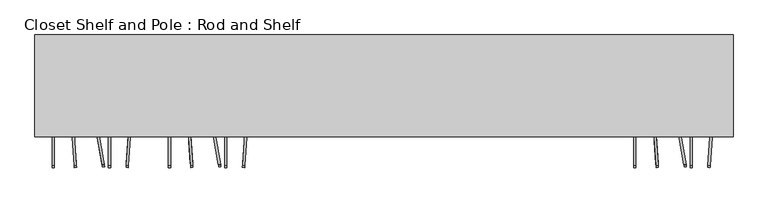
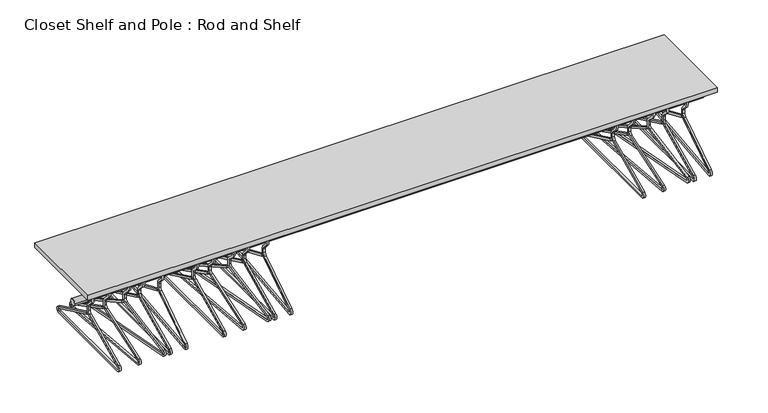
"""IFC4 building model written with IfcOpenShell, lengths in millimetres: furniture geometry, Closet Shelf and Pole : Rod and Shelf."""

from ifc_helpers import new_model, si_unit, point, frame, frame_2d, origin, place, context, project, spatial, polyline, circle_curve, trimmed, segment, composite_curve, outline, extrude, source, transform, mapped, element, save


def closet_shelf_and_pole_rod_and_shelf_79c3418e(model_context):
    return source(origin(), model_context, "Body", "SweptSolid", [
        extrude(outline(composite_curve([segment(polyline([(0.0, -7.62), (0.0, 0.0), (209.55, 0.0)]), True, "CONTINUOUS"), segment(trimmed(circle_curve(frame_2d((209.55, -12.7)), 12.7), [point((209.55, 0.0))], [point((215.0168758, -24.1631265))], False, "CARTESIAN"), True, "CONTINUOUS"), segment(polyline([(215.0168758, -24.1631265), (-140.3400452, -193.6362767)]), True, "CONTINUOUS"), segment(trimmed(circle_curve(frame_2d((-145.806921, -182.1731502)), 12.7), [point((-140.3400452, -193.6362767))], [point((-155.6758169, -174.179722))], False, "CARTESIAN"), True, "CONTINUOUS"), segment(polyline([(-155.6758169, -174.179722), (-19.6406824, -6.2271797)]), True, "CONTINUOUS"), segment(trimmed(circle_curve(frame_2d((-29.5095783, 1.7662485)), 12.7), [point((-19.6406824, -6.2271797))], [point((-18.0464519, 7.2331242))], True, "CARTESIAN"), True, "CONTINUOUS"), segment(polyline([(-18.0464519, 7.2331242), (-24.2041701, 20.1448321)]), True, "CONTINUOUS"), segment(trimmed(circle_curve(frame_2d((-35.6672966, 14.6779563)), 12.7), [point((-24.2041701, 20.1448321))], [point((-31.4273071, 26.6492757))], True, "CARTESIAN"), True, "CONTINUOUS"), segment(polyline([(-31.4273071, 26.6492757), (-50.4112631, 33.3729936)]), True, "CONTINUOUS"), segment(trimmed(circle_curve(frame_2d((-41.9312841, 57.3156324)), 25.4), [point((-50.4112631, 33.3729936))], [point((-19.005031, 68.2493841))], False, "CARTESIAN"), True, "CONTINUOUS"), segment(polyline([(-19.005031, 68.2493841), (-25.882907, 64.9692586)]), True, "CONTINUOUS"), segment(trimmed(circle_curve(frame_2d((-41.9312841, 57.3156324)), 17.78), [point((-25.882907, 64.9692586))], [point((-47.8672693, 40.5557852))], True, "CARTESIAN"), True, "CONTINUOUS"), segment(polyline([(-47.8672693, 40.5557852), (-28.8833134, 33.8320674)]), True, "CONTINUOUS"), segment(trimmed(circle_curve(frame_2d((-35.6672966, 14.6779563)), 20.32), [point((-28.8833134, 33.8320674))], [point((-17.3262942, 23.4249576))], False, "CARTESIAN"), True, "CONTINUOUS"), segment(polyline([(-17.3262942, 23.4249576), (-11.1685759, 10.5132497)]), True, "CONTINUOUS"), segment(trimmed(circle_curve(frame_2d((-29.5095783, 1.7662485)), 20.32), [point((-11.1685759, 10.5132497))], [point((-13.7193448, -11.0232366))], False, "CARTESIAN"), True, "CONTINUOUS"), segment(polyline([(-13.7193448, -11.0232366), (-149.7544794, -178.9757789)]), True, "CONTINUOUS"), segment(trimmed(circle_curve(frame_2d((-145.806921, -182.1731502)), 5.08), [point((-149.7544794, -178.9757789))], [point((-143.6201707, -186.7584008))], True, "CARTESIAN"), True, "CONTINUOUS"), segment(polyline([(-143.6201707, -186.7584008), (211.7367503, -17.2852506)]), True, "CONTINUOUS"), segment(trimmed(circle_curve(frame_2d((209.55, -12.7)), 5.08), [point((211.7367503, -17.2852506))], [point((209.55, -7.62))], True, "CARTESIAN"), True, "CONTINUOUS"), segment(polyline([(209.55, -7.62), (0.0, -7.62)]), True, "CONTINUOUS")], self_intersect=False)), frame((603.5600176, -241.686473, 1314.5165774), z_axis=(0.9848077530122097, 0.1736481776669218, 0.0), x_axis=(-0.15673630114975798, 0.8888957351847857, -0.4304626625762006)), (0.0, 0.0, 1.0), 7.62),
        extrude(outline(composite_curve([segment(polyline([(0.0, -7.62), (0.0, 0.0), (209.55, 0.0)]), True, "CONTINUOUS"), segment(trimmed(circle_curve(frame_2d((209.55, 5.08)), 5.08), [point((209.55, 0.0))], [point((211.7367503, 9.6652506))], True, "CARTESIAN"), True, "CONTINUOUS"), segment(polyline([(211.7367503, 9.6652506), (-143.6201708, 179.1384008)]), True, "CONTINUOUS"), segment(trimmed(circle_curve(frame_2d((-145.8069211, 174.5531502)), 5.08), [point((-143.6201708, 179.1384008))], [point((-149.7544794, 171.355779))], True, "CARTESIAN"), True, "CONTINUOUS"), segment(polyline([(-149.7544794, 171.355779), (-13.7193449, 3.4032366)]), True, "CONTINUOUS"), segment(trimmed(circle_curve(frame_2d((-29.5095783, -9.3862485)), 20.32), [point((-13.7193449, 3.4032366))], [point((-11.1685759, -18.1332498))], False, "CARTESIAN"), True, "CONTINUOUS"), segment(polyline([(-11.1685759, -18.1332498), (-17.3262942, -31.0449576)]), True, "CONTINUOUS"), segment(trimmed(circle_curve(frame_2d((-35.6672966, -22.2979563)), 20.32), [point((-17.3262942, -31.0449576))], [point((-28.8833133, -41.4520675))], False, "CARTESIAN"), True, "CONTINUOUS"), segment(polyline([(-28.8833133, -41.4520675), (-47.8672693, -48.1757852)]), True, "CONTINUOUS"), segment(trimmed(circle_curve(frame_2d((-41.931284, -64.9356325)), 17.78), [point((-47.8672693, -48.1757852))], [point((-25.882907, -72.5892586))], True, "CARTESIAN"), True, "CONTINUOUS"), segment(polyline([(-25.882907, -72.5892586), (-19.0050311, -75.8693841)]), True, "CONTINUOUS"), segment(trimmed(circle_curve(frame_2d((-41.931284, -64.9356325)), 25.4), [point((-19.0050311, -75.8693841))], [point((-50.4112631, -40.9929936))], False, "CARTESIAN"), True, "CONTINUOUS"), segment(polyline([(-50.4112631, -40.9929936), (-31.427307, -34.2692758)]), True, "CONTINUOUS"), segment(trimmed(circle_curve(frame_2d((-35.6672966, -22.2979563)), 12.7), [point((-31.427307, -34.2692758))], [point((-24.2041701, -27.7648321))], True, "CARTESIAN"), True, "CONTINUOUS"), segment(polyline([(-24.2041701, -27.7648321), (-18.0464518, -14.8531243)]), True, "CONTINUOUS"), segment(trimmed(circle_curve(frame_2d((-29.5095783, -9.3862485)), 12.7), [point((-18.0464518, -14.8531243))], [point((-19.6406824, -1.3928203))], True, "CARTESIAN"), True, "CONTINUOUS"), segment(polyline([(-19.6406824, -1.3928203), (-155.6758169, 166.559722)]), True, "CONTINUOUS"), segment(trimmed(circle_curve(frame_2d((-145.8069211, 174.5531502)), 12.7), [point((-155.6758169, 166.559722))], [point((-140.3400453, 186.0162767))], False, "CARTESIAN"), True, "CONTINUOUS"), segment(polyline([(-140.3400453, 186.0162767), (215.0168758, 16.5431265)]), True, "CONTINUOUS"), segment(trimmed(circle_curve(frame_2d((209.55, 5.08)), 12.7), [point((215.0168758, 16.5431265))], [point((209.55, -7.6200001))], False, "CARTESIAN"), True, "CONTINUOUS"), segment(polyline([(209.55, -7.6200001), (0.0, -7.62)]), True, "CONTINUOUS")], self_intersect=False)), frame((747.4409707, -244.394713, 1307.6387015), z_axis=(-0.9975640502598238, 0.0697564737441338, 0.0), x_axis=(0.06296277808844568, 0.900409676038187, -0.4304626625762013)), (0.0, 0.0, 1.0), 7.62),
        extrude(outline(composite_curve([segment(polyline([(0.0, -7.62), (0.0, 0.0), (209.55, 0.0)]), True, "CONTINUOUS"), segment(trimmed(circle_curve(frame_2d((209.55, -12.7)), 12.7), [point((209.55, 0.0))], [point((215.0168758, -24.1631265))], False, "CARTESIAN"), True, "CONTINUOUS"), segment(polyline([(215.0168758, -24.1631265), (-140.3400453, -193.6362767)]), True, "CONTINUOUS"), segment(trimmed(circle_curve(frame_2d((-145.8069211, -182.1731502)), 12.7), [point((-140.3400453, -193.6362767))], [point((-155.6758169, -174.179722))], False, "CARTESIAN"), True, "CONTINUOUS"), segment(polyline([(-155.6758169, -174.179722), (-19.6406824, -6.2271797)]), True, "CONTINUOUS"), segment(trimmed(circle_curve(frame_2d((-29.5095783, 1.7662484)), 12.7), [point((-19.6406824, -6.2271797))], [point((-18.0464519, 7.2331242))], True, "CARTESIAN"), True, "CONTINUOUS"), segment(polyline([(-18.0464519, 7.2331242), (-24.2041701, 20.1448321)]), True, "CONTINUOUS"), segment(trimmed(circle_curve(frame_2d((-35.6672966, 14.6779563)), 12.7), [point((-24.2041701, 20.1448321))], [point((-31.427307, 26.6492757))], True, "CARTESIAN"), True, "CONTINUOUS"), segment(polyline([(-31.427307, 26.6492757), (-50.4112631, 33.3729936)]), True, "CONTINUOUS"), segment(trimmed(circle_curve(frame_2d((-41.9312841, 57.3156324)), 25.4), [point((-50.4112631, 33.3729936))], [point((-19.0050311, 68.2493841))], False, "CARTESIAN"), True, "CONTINUOUS"), segment(polyline([(-19.0050311, 68.2493841), (-25.882907, 64.9692586)]), True, "CONTINUOUS"), segment(trimmed(circle_curve(frame_2d((-41.9312841, 57.3156324)), 17.78), [point((-25.882907, 64.9692586))], [point((-47.8672693, 40.5557852))], True, "CARTESIAN"), True, "CONTINUOUS"), segment(polyline([(-47.8672693, 40.5557852), (-28.8833133, 33.8320674)]), True, "CONTINUOUS"), segment(trimmed(circle_curve(frame_2d((-35.6672966, 14.6779563)), 20.32), [point((-28.8833133, 33.8320674))], [point((-17.3262942, 23.4249576))], False, "CARTESIAN"), True, "CONTINUOUS"), segment(polyline([(-17.3262942, 23.4249576), (-11.1685759, 10.5132497)]), True, "CONTINUOUS"), segment(trimmed(circle_curve(frame_2d((-29.5095783, 1.7662484)), 20.32), [point((-11.1685759, 10.5132497))], [point((-13.7193449, -11.0232367))], False, "CARTESIAN"), True, "CONTINUOUS"), segment(polyline([(-13.7193449, -11.0232367), (-149.7544795, -178.975779)]), True, "CONTINUOUS"), segment(trimmed(circle_curve(frame_2d((-145.8069211, -182.1731502)), 5.08), [point((-149.7544795, -178.975779))], [point((-143.6201708, -186.7584008))], True, "CARTESIAN"), True, "CONTINUOUS"), segment(polyline([(-143.6201708, -186.7584008), (211.7367503, -17.2852506)]), True, "CONTINUOUS"), segment(trimmed(circle_curve(frame_2d((209.55, -12.7)), 5.08), [point((211.7367503, -17.2852506))], [point((209.5499999, -7.62))], True, "CARTESIAN"), True, "CONTINUOUS"), segment(polyline([(209.5499999, -7.62), (0.0, -7.62)]), True, "CONTINUOUS")], self_intersect=False)), frame((528.6802193, -241.1225777, 1314.5165774), z_axis=(0.997564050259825, 0.06975647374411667, 0.0), x_axis=(-0.06296277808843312, 0.900409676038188, -0.4304626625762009)), (0.0, 0.0, 1.0), 7.62),
        extrude(outline(composite_curve([segment(polyline([(-244.1048367, 1307.6387015), (-240.8247112, 1314.5165774), (-51.6831242, 1224.3131265)]), True, "CONTINUOUS"), segment(trimmed(circle_curve(frame_2d((-57.15, 1212.85)), 12.7), [point((-51.6831242, 1224.3131265))], [point((-57.15, 1200.15))], False, "CARTESIAN"), True, "CONTINUOUS"), segment(polyline([(-57.15, 1200.15), (-450.85, 1200.15)]), True, "CONTINUOUS"), segment(trimmed(circle_curve(frame_2d((-450.85, 1212.85)), 12.7), [point((-450.85, 1200.15))], [point((-456.3168758, 1224.3131265))], False, "CARTESIAN"), True, "CONTINUOUS"), segment(polyline([(-456.3168758, 1224.3131265), (-261.2331242, 1317.3504532)]), True, "CONTINUOUS"), segment(trimmed(circle_curve(frame_2d((-266.7, 1328.8135797)), 12.7), [point((-261.2331242, 1317.3504532))], [point((-254.0, 1328.8135797))], True, "CARTESIAN"), True, "CONTINUOUS"), segment(polyline([(-254.0, 1328.8135797), (-254.0, 1343.1184633)]), True, "CONTINUOUS"), segment(trimmed(circle_curve(frame_2d((-266.7, 1343.1184633)), 12.7), [point((-254.0, 1343.1184633))], [point((-257.7197439, 1352.0987194))], True, "CARTESIAN"), True, "CONTINUOUS"), segment(polyline([(-257.7197439, 1352.0987194), (-271.9605122, 1366.3394878)]), True, "CONTINUOUS"), segment(trimmed(circle_curve(frame_2d((-254.0, 1384.3)), 25.4), [point((-271.9605122, 1366.3394878))], [point((-228.6, 1384.3))], False, "CARTESIAN"), True, "CONTINUOUS"), segment(polyline([(-228.6, 1384.3), (-236.22, 1384.3)]), True, "CONTINUOUS"), segment(trimmed(circle_curve(frame_2d((-254.0, 1384.3)), 17.78), [point((-236.22, 1384.3))], [point((-266.5723586, 1371.7276414))], True, "CARTESIAN"), True, "CONTINUOUS"), segment(polyline([(-266.5723586, 1371.7276414), (-252.3315902, 1357.4868731)]), True, "CONTINUOUS"), segment(trimmed(circle_curve(frame_2d((-266.7, 1343.1184633)), 20.32), [point((-252.3315902, 1357.4868731))], [point((-246.38, 1343.1184633))], False, "CARTESIAN"), True, "CONTINUOUS"), segment(polyline([(-246.38, 1343.1184633), (-246.38, 1328.8135797)]), True, "CONTINUOUS"), segment(trimmed(circle_curve(frame_2d((-266.7, 1328.8135797)), 20.32), [point((-246.38, 1328.8135797))], [point((-257.9529987, 1310.4725773))], False, "CARTESIAN"), True, "CONTINUOUS"), segment(polyline([(-257.9529987, 1310.4725773), (-453.0367503, 1217.4352506)]), True, "CONTINUOUS"), segment(trimmed(circle_curve(frame_2d((-450.85, 1212.85)), 5.08), [point((-453.0367503, 1217.4352506))], [point((-450.85, 1207.77))], True, "CARTESIAN"), True, "CONTINUOUS"), segment(polyline([(-450.85, 1207.77), (-57.15, 1207.77)]), True, "CONTINUOUS"), segment(trimmed(circle_curve(frame_2d((-57.15, 1212.85)), 5.08), [point((-57.15, 1207.77))], [point((-54.9632497, 1217.4352506))], True, "CARTESIAN"), True, "CONTINUOUS"), segment(polyline([(-54.9632497, 1217.4352506), (-244.1048367, 1307.6387015)]), True, "CONTINUOUS")], self_intersect=False)), frame((662.94, 0.0, 0.0), z_axis=(1.0, 0.0, 0.0), x_axis=(0.0, 1.0, 0.0)), (0.0, 0.0, 1.0), 7.62),
        extrude(outline(composite_curve([segment(polyline([(-244.1048367, 1307.6387015), (-240.8247112, 1314.5165774), (-51.6831242, 1224.3131265)]), True, "CONTINUOUS"), segment(trimmed(circle_curve(frame_2d((-57.15, 1212.85)), 12.7), [point((-51.6831242, 1224.3131265))], [point((-57.15, 1200.15))], False, "CARTESIAN"), True, "CONTINUOUS"), segment(polyline([(-57.15, 1200.15), (-450.85, 1200.15)]), True, "CONTINUOUS"), segment(trimmed(circle_curve(frame_2d((-450.85, 1212.85)), 12.7), [point((-450.85, 1200.15))], [point((-456.3168758, 1224.3131265))], False, "CARTESIAN"), True, "CONTINUOUS"), segment(polyline([(-456.3168758, 1224.3131265), (-261.2331242, 1317.3504532)]), True, "CONTINUOUS"), segment(trimmed(circle_curve(frame_2d((-266.7, 1328.8135797)), 12.7), [point((-261.2331242, 1317.3504532))], [point((-254.0, 1328.8135797))], True, "CARTESIAN"), True, "CONTINUOUS"), segment(polyline([(-254.0, 1328.8135797), (-254.0, 1343.1184633)]), True, "CONTINUOUS"), segment(trimmed(circle_curve(frame_2d((-266.7, 1343.1184633)), 12.7), [point((-254.0, 1343.1184633))], [point((-257.7197439, 1352.0987194))], True, "CARTESIAN"), True, "CONTINUOUS"), segment(polyline([(-257.7197439, 1352.0987194), (-271.9605122, 1366.3394878)]), True, "CONTINUOUS"), segment(trimmed(circle_curve(frame_2d((-254.0, 1384.3)), 25.4), [point((-271.9605122, 1366.3394878))], [point((-228.6, 1384.3))], False, "CARTESIAN"), True, "CONTINUOUS"), segment(polyline([(-228.6, 1384.3), (-236.22, 1384.3)]), True, "CONTINUOUS"), segment(trimmed(circle_curve(frame_2d((-254.0, 1384.3)), 17.78), [point((-236.22, 1384.3))], [point((-266.5723586, 1371.7276414))], True, "CARTESIAN"), True, "CONTINUOUS"), segment(polyline([(-266.5723586, 1371.7276414), (-252.3315902, 1357.4868731)]), True, "CONTINUOUS"), segment(trimmed(circle_curve(frame_2d((-266.7, 1343.1184633)), 20.32), [point((-252.3315902, 1357.4868731))], [point((-246.38, 1343.1184633))], False, "CARTESIAN"), True, "CONTINUOUS"), segment(polyline([(-246.38, 1343.1184633), (-246.38, 1328.8135797)]), True, "CONTINUOUS"), segment(trimmed(circle_curve(frame_2d((-266.7, 1328.8135797)), 20.32), [point((-246.38, 1328.8135797))], [point((-257.9529987, 1310.4725773))], False, "CARTESIAN"), True, "CONTINUOUS"), segment(polyline([(-257.9529987, 1310.4725773), (-453.0367503, 1217.4352506)]), True, "CONTINUOUS"), segment(trimmed(circle_curve(frame_2d((-450.85, 1212.85)), 5.08), [point((-453.0367503, 1217.4352506))], [point((-450.85, 1207.77))], True, "CARTESIAN"), True, "CONTINUOUS"), segment(polyline([(-450.85, 1207.77), (-57.15, 1207.77)]), True, "CONTINUOUS"), segment(trimmed(circle_curve(frame_2d((-57.15, 1212.85)), 5.08), [point((-57.15, 1207.77))], [point((-54.9632497, 1217.4352506))], True, "CARTESIAN"), True, "CONTINUOUS"), segment(polyline([(-54.9632497, 1217.4352506), (-244.1048367, 1307.6387015)]), True, "CONTINUOUS")], self_intersect=False)), frame((466.09, 0.0, 0.0), z_axis=(1.0, 0.0, 0.0), x_axis=(0.0, 1.0, 0.0)), (0.0, 0.0, 1.0), 7.62),
        extrude(outline(composite_curve([segment(polyline([(0.0, -7.62), (0.0, 0.0), (209.55, 0.0)]), True, "CONTINUOUS"), segment(trimmed(circle_curve(frame_2d((209.55, -12.7)), 12.7), [point((209.55, 0.0))], [point((215.0168758, -24.1631265))], False, "CARTESIAN"), True, "CONTINUOUS"), segment(polyline([(215.0168758, -24.1631265), (-140.3400452, -193.6362767)]), True, "CONTINUOUS"), segment(trimmed(circle_curve(frame_2d((-145.806921, -182.1731502)), 12.7), [point((-140.3400452, -193.6362767))], [point((-155.6758169, -174.179722))], False, "CARTESIAN"), True, "CONTINUOUS"), segment(polyline([(-155.6758169, -174.179722), (-19.6406824, -6.2271797)]), True, "CONTINUOUS"), segment(trimmed(circle_curve(frame_2d((-29.5095783, 1.7662485)), 12.7), [point((-19.6406824, -6.2271797))], [point((-18.0464519, 7.2331242))], True, "CARTESIAN"), True, "CONTINUOUS"), segment(polyline([(-18.0464519, 7.2331242), (-24.2041701, 20.1448321)]), True, "CONTINUOUS"), segment(trimmed(circle_curve(frame_2d((-35.6672966, 14.6779563)), 12.7), [point((-24.2041701, 20.1448321))], [point((-31.4273071, 26.6492757))], True, "CARTESIAN"), True, "CONTINUOUS"), segment(polyline([(-31.4273071, 26.6492757), (-50.4112631, 33.3729936)]), True, "CONTINUOUS"), segment(trimmed(circle_curve(frame_2d((-41.9312841, 57.3156324)), 25.4), [point((-50.4112631, 33.3729936))], [point((-19.005031, 68.2493841))], False, "CARTESIAN"), True, "CONTINUOUS"), segment(polyline([(-19.005031, 68.2493841), (-25.882907, 64.9692586)]), True, "CONTINUOUS"), segment(trimmed(circle_curve(frame_2d((-41.9312841, 57.3156324)), 17.78), [point((-25.882907, 64.9692586))], [point((-47.8672693, 40.5557852))], True, "CARTESIAN"), True, "CONTINUOUS"), segment(polyline([(-47.8672693, 40.5557852), (-28.8833134, 33.8320674)]), True, "CONTINUOUS"), segment(trimmed(circle_curve(frame_2d((-35.6672966, 14.6779563)), 20.32), [point((-28.8833134, 33.8320674))], [point((-17.3262942, 23.4249576))], False, "CARTESIAN"), True, "CONTINUOUS"), segment(polyline([(-17.3262942, 23.4249576), (-11.1685759, 10.5132497)]), True, "CONTINUOUS"), segment(trimmed(circle_curve(frame_2d((-29.5095783, 1.7662485)), 20.32), [point((-11.1685759, 10.5132497))], [point((-13.7193448, -11.0232366))], False, "CARTESIAN"), True, "CONTINUOUS"), segment(polyline([(-13.7193448, -11.0232366), (-149.7544794, -178.9757789)]), True, "CONTINUOUS"), segment(trimmed(circle_curve(frame_2d((-145.806921, -182.1731502)), 5.08), [point((-149.7544794, -178.9757789))], [point((-143.6201707, -186.7584008))], True, "CARTESIAN"), True, "CONTINUOUS"), segment(polyline([(-143.6201707, -186.7584008), (211.7367503, -17.2852506)]), True, "CONTINUOUS"), segment(trimmed(circle_curve(frame_2d((209.55, -12.7)), 5.08), [point((211.7367503, -17.2852506))], [point((209.55, -7.62))], True, "CARTESIAN"), True, "CONTINUOUS"), segment(polyline([(209.55, -7.62), (0.0, -7.62)]), True, "CONTINUOUS")], self_intersect=False)), frame((2229.1600176, -241.686473, 1314.5165774), z_axis=(0.9848077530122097, 0.1736481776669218, 0.0), x_axis=(-0.15673630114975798, 0.8888957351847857, -0.4304626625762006)), (0.0, 0.0, 1.0), 7.62),
        extrude(outline(composite_curve([segment(polyline([(0.0, -7.62), (0.0, 0.0), (209.55, 0.0)]), True, "CONTINUOUS"), segment(trimmed(circle_curve(frame_2d((209.55, 5.08)), 5.08), [point((209.55, 0.0))], [point((211.7367503, 9.6652506))], True, "CARTESIAN"), True, "CONTINUOUS"), segment(polyline([(211.7367503, 9.6652506), (-143.6201708, 179.1384008)]), True, "CONTINUOUS"), segment(trimmed(circle_curve(frame_2d((-145.8069211, 174.5531502)), 5.08), [point((-143.6201708, 179.1384008))], [point((-149.7544794, 171.355779))], True, "CARTESIAN"), True, "CONTINUOUS"), segment(polyline([(-149.7544794, 171.355779), (-13.7193449, 3.4032366)]), True, "CONTINUOUS"), segment(trimmed(circle_curve(frame_2d((-29.5095783, -9.3862485)), 20.32), [point((-13.7193449, 3.4032366))], [point((-11.1685759, -18.1332498))], False, "CARTESIAN"), True, "CONTINUOUS"), segment(polyline([(-11.1685759, -18.1332498), (-17.3262942, -31.0449576)]), True, "CONTINUOUS"), segment(trimmed(circle_curve(frame_2d((-35.6672966, -22.2979563)), 20.32), [point((-17.3262942, -31.0449576))], [point((-28.8833133, -41.4520675))], False, "CARTESIAN"), True, "CONTINUOUS"), segment(polyline([(-28.8833133, -41.4520675), (-47.8672693, -48.1757852)]), True, "CONTINUOUS"), segment(trimmed(circle_curve(frame_2d((-41.931284, -64.9356325)), 17.78), [point((-47.8672693, -48.1757852))], [point((-25.882907, -72.5892586))], True, "CARTESIAN"), True, "CONTINUOUS"), segment(polyline([(-25.882907, -72.5892586), (-19.0050311, -75.8693841)]), True, "CONTINUOUS"), segment(trimmed(circle_curve(frame_2d((-41.931284, -64.9356325)), 25.4), [point((-19.0050311, -75.8693841))], [point((-50.4112631, -40.9929936))], False, "CARTESIAN"), True, "CONTINUOUS"), segment(polyline([(-50.4112631, -40.9929936), (-31.427307, -34.2692758)]), True, "CONTINUOUS"), segment(trimmed(circle_curve(frame_2d((-35.6672966, -22.2979563)), 12.7), [point((-31.427307, -34.2692758))], [point((-24.2041701, -27.7648321))], True, "CARTESIAN"), True, "CONTINUOUS"), segment(polyline([(-24.2041701, -27.7648321), (-18.0464518, -14.8531243)]), True, "CONTINUOUS"), segment(trimmed(circle_curve(frame_2d((-29.5095783, -9.3862485)), 12.7), [point((-18.0464518, -14.8531243))], [point((-19.6406824, -1.3928203))], True, "CARTESIAN"), True, "CONTINUOUS"), segment(polyline([(-19.6406824, -1.3928203), (-155.6758169, 166.559722)]), True, "CONTINUOUS"), segment(trimmed(circle_curve(frame_2d((-145.8069211, 174.5531502)), 12.7), [point((-155.6758169, 166.559722))], [point((-140.3400453, 186.0162767))], False, "CARTESIAN"), True, "CONTINUOUS"), segment(polyline([(-140.3400453, 186.0162767), (215.0168758, 16.5431265)]), True, "CONTINUOUS"), segment(trimmed(circle_curve(frame_2d((209.55, 5.08)), 12.7), [point((215.0168758, 16.5431265))], [point((209.55, -7.6200001))], False, "CARTESIAN"), True, "CONTINUOUS"), segment(polyline([(209.55, -7.6200001), (0.0, -7.62)]), True, "CONTINUOUS")], self_intersect=False)), frame((2373.0409707, -244.394713, 1307.6387015), z_axis=(-0.9975640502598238, 0.0697564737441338, 0.0), x_axis=(0.06296277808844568, 0.900409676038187, -0.4304626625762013)), (0.0, 0.0, 1.0), 7.62),
        extrude(outline(composite_curve([segment(polyline([(0.0, -7.62), (0.0, 0.0), (209.55, 0.0)]), True, "CONTINUOUS"), segment(trimmed(circle_curve(frame_2d((209.55, -12.7)), 12.7), [point((209.55, 0.0))], [point((215.0168758, -24.1631265))], False, "CARTESIAN"), True, "CONTINUOUS"), segment(polyline([(215.0168758, -24.1631265), (-140.3400453, -193.6362767)]), True, "CONTINUOUS"), segment(trimmed(circle_curve(frame_2d((-145.8069211, -182.1731502)), 12.7), [point((-140.3400453, -193.6362767))], [point((-155.6758169, -174.179722))], False, "CARTESIAN"), True, "CONTINUOUS"), segment(polyline([(-155.6758169, -174.179722), (-19.6406824, -6.2271797)]), True, "CONTINUOUS"), segment(trimmed(circle_curve(frame_2d((-29.5095783, 1.7662484)), 12.7), [point((-19.6406824, -6.2271797))], [point((-18.0464519, 7.2331242))], True, "CARTESIAN"), True, "CONTINUOUS"), segment(polyline([(-18.0464519, 7.2331242), (-24.2041701, 20.1448321)]), True, "CONTINUOUS"), segment(trimmed(circle_curve(frame_2d((-35.6672966, 14.6779563)), 12.7), [point((-24.2041701, 20.1448321))], [point((-31.427307, 26.6492757))], True, "CARTESIAN"), True, "CONTINUOUS"), segment(polyline([(-31.427307, 26.6492757), (-50.4112631, 33.3729936)]), True, "CONTINUOUS"), segment(trimmed(circle_curve(frame_2d((-41.9312841, 57.3156324)), 25.4), [point((-50.4112631, 33.3729936))], [point((-19.0050311, 68.2493841))], False, "CARTESIAN"), True, "CONTINUOUS"), segment(polyline([(-19.0050311, 68.2493841), (-25.882907, 64.9692586)]), True, "CONTINUOUS"), segment(trimmed(circle_curve(frame_2d((-41.9312841, 57.3156324)), 17.78), [point((-25.882907, 64.9692586))], [point((-47.8672693, 40.5557852))], True, "CARTESIAN"), True, "CONTINUOUS"), segment(polyline([(-47.8672693, 40.5557852), (-28.8833133, 33.8320674)]), True, "CONTINUOUS"), segment(trimmed(circle_curve(frame_2d((-35.6672966, 14.6779563)), 20.32), [point((-28.8833133, 33.8320674))], [point((-17.3262942, 23.4249576))], False, "CARTESIAN"), True, "CONTINUOUS"), segment(polyline([(-17.3262942, 23.4249576), (-11.1685759, 10.5132497)]), True, "CONTINUOUS"), segment(trimmed(circle_curve(frame_2d((-29.5095783, 1.7662484)), 20.32), [point((-11.1685759, 10.5132497))], [point((-13.7193449, -11.0232367))], False, "CARTESIAN"), True, "CONTINUOUS"), segment(polyline([(-13.7193449, -11.0232367), (-149.7544795, -178.975779)]), True, "CONTINUOUS"), segment(trimmed(circle_curve(frame_2d((-145.8069211, -182.1731502)), 5.08), [point((-149.7544795, -178.975779))], [point((-143.6201708, -186.7584008))], True, "CARTESIAN"), True, "CONTINUOUS"), segment(polyline([(-143.6201708, -186.7584008), (211.7367503, -17.2852506)]), True, "CONTINUOUS"), segment(trimmed(circle_curve(frame_2d((209.55, -12.7)), 5.08), [point((211.7367503, -17.2852506))], [point((209.5499999, -7.62))], True, "CARTESIAN"), True, "CONTINUOUS"), segment(polyline([(209.5499999, -7.62), (0.0, -7.62)]), True, "CONTINUOUS")], self_intersect=False)), frame((2154.2802193, -241.1225777, 1314.5165774), z_axis=(0.997564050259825, 0.06975647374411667, 0.0), x_axis=(-0.06296277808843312, 0.900409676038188, -0.4304626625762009)), (0.0, 0.0, 1.0), 7.62),
        extrude(outline(composite_curve([segment(polyline([(-244.1048367, 1307.6387015), (-240.8247112, 1314.5165774), (-51.6831242, 1224.3131265)]), True, "CONTINUOUS"), segment(trimmed(circle_curve(frame_2d((-57.15, 1212.85)), 12.7), [point((-51.6831242, 1224.3131265))], [point((-57.15, 1200.15))], False, "CARTESIAN"), True, "CONTINUOUS"), segment(polyline([(-57.15, 1200.15), (-450.85, 1200.15)]), True, "CONTINUOUS"), segment(trimmed(circle_curve(frame_2d((-450.85, 1212.85)), 12.7), [point((-450.85, 1200.15))], [point((-456.3168758, 1224.3131265))], False, "CARTESIAN"), True, "CONTINUOUS"), segment(polyline([(-456.3168758, 1224.3131265), (-261.2331242, 1317.3504532)]), True, "CONTINUOUS"), segment(trimmed(circle_curve(frame_2d((-266.7, 1328.8135797)), 12.7), [point((-261.2331242, 1317.3504532))], [point((-254.0, 1328.8135797))], True, "CARTESIAN"), True, "CONTINUOUS"), segment(polyline([(-254.0, 1328.8135797), (-254.0, 1343.1184633)]), True, "CONTINUOUS"), segment(trimmed(circle_curve(frame_2d((-266.7, 1343.1184633)), 12.7), [point((-254.0, 1343.1184633))], [point((-257.7197439, 1352.0987194))], True, "CARTESIAN"), True, "CONTINUOUS"), segment(polyline([(-257.7197439, 1352.0987194), (-271.9605122, 1366.3394878)]), True, "CONTINUOUS"), segment(trimmed(circle_curve(frame_2d((-254.0, 1384.3)), 25.4), [point((-271.9605122, 1366.3394878))], [point((-228.6, 1384.3))], False, "CARTESIAN"), True, "CONTINUOUS"), segment(polyline([(-228.6, 1384.3), (-236.22, 1384.3)]), True, "CONTINUOUS"), segment(trimmed(circle_curve(frame_2d((-254.0, 1384.3)), 17.78), [point((-236.22, 1384.3))], [point((-266.5723586, 1371.7276414))], True, "CARTESIAN"), True, "CONTINUOUS"), segment(polyline([(-266.5723586, 1371.7276414), (-252.3315902, 1357.4868731)]), True, "CONTINUOUS"), segment(trimmed(circle_curve(frame_2d((-266.7, 1343.1184633)), 20.32), [point((-252.3315902, 1357.4868731))], [point((-246.38, 1343.1184633))], False, "CARTESIAN"), True, "CONTINUOUS"), segment(polyline([(-246.38, 1343.1184633), (-246.38, 1328.8135797)]), True, "CONTINUOUS"), segment(trimmed(circle_curve(frame_2d((-266.7, 1328.8135797)), 20.32), [point((-246.38, 1328.8135797))], [point((-257.9529987, 1310.4725773))], False, "CARTESIAN"), True, "CONTINUOUS"), segment(polyline([(-257.9529987, 1310.4725773), (-453.0367503, 1217.4352506)]), True, "CONTINUOUS"), segment(trimmed(circle_curve(frame_2d((-450.85, 1212.85)), 5.08), [point((-453.0367503, 1217.4352506))], [point((-450.85, 1207.77))], True, "CARTESIAN"), True, "CONTINUOUS"), segment(polyline([(-450.85, 1207.77), (-57.15, 1207.77)]), True, "CONTINUOUS"), segment(trimmed(circle_curve(frame_2d((-57.15, 1212.85)), 5.08), [point((-57.15, 1207.77))], [point((-54.9632497, 1217.4352506))], True, "CARTESIAN"), True, "CONTINUOUS"), segment(polyline([(-54.9632497, 1217.4352506), (-244.1048367, 1307.6387015)]), True, "CONTINUOUS")], self_intersect=False)), frame((2288.54, 0.0, 0.0), z_axis=(1.0, 0.0, 0.0), x_axis=(0.0, 1.0, 0.0)), (0.0, 0.0, 1.0), 7.62),
        extrude(outline(composite_curve([segment(polyline([(-244.1048367, 1307.6387015), (-240.8247112, 1314.5165774), (-51.6831242, 1224.3131265)]), True, "CONTINUOUS"), segment(trimmed(circle_curve(frame_2d((-57.15, 1212.85)), 12.7), [point((-51.6831242, 1224.3131265))], [point((-57.15, 1200.15))], False, "CARTESIAN"), True, "CONTINUOUS"), segment(polyline([(-57.15, 1200.15), (-450.85, 1200.15)]), True, "CONTINUOUS"), segment(trimmed(circle_curve(frame_2d((-450.85, 1212.85)), 12.7), [point((-450.85, 1200.15))], [point((-456.3168758, 1224.3131265))], False, "CARTESIAN"), True, "CONTINUOUS"), segment(polyline([(-456.3168758, 1224.3131265), (-261.2331242, 1317.3504532)]), True, "CONTINUOUS"), segment(trimmed(circle_curve(frame_2d((-266.7, 1328.8135797)), 12.7), [point((-261.2331242, 1317.3504532))], [point((-254.0, 1328.8135797))], True, "CARTESIAN"), True, "CONTINUOUS"), segment(polyline([(-254.0, 1328.8135797), (-254.0, 1343.1184633)]), True, "CONTINUOUS"), segment(trimmed(circle_curve(frame_2d((-266.7, 1343.1184633)), 12.7), [point((-254.0, 1343.1184633))], [point((-257.7197439, 1352.0987194))], True, "CARTESIAN"), True, "CONTINUOUS"), segment(polyline([(-257.7197439, 1352.0987194), (-271.9605122, 1366.3394878)]), True, "CONTINUOUS"), segment(trimmed(circle_curve(frame_2d((-254.0, 1384.3)), 25.4), [point((-271.9605122, 1366.3394878))], [point((-228.6, 1384.3))], False, "CARTESIAN"), True, "CONTINUOUS"), segment(polyline([(-228.6, 1384.3), (-236.22, 1384.3)]), True, "CONTINUOUS"), segment(trimmed(circle_curve(frame_2d((-254.0, 1384.3)), 17.78), [point((-236.22, 1384.3))], [point((-266.5723586, 1371.7276414))], True, "CARTESIAN"), True, "CONTINUOUS"), segment(polyline([(-266.5723586, 1371.7276414), (-252.3315902, 1357.4868731)]), True, "CONTINUOUS"), segment(trimmed(circle_curve(frame_2d((-266.7, 1343.1184633)), 20.32), [point((-252.3315902, 1357.4868731))], [point((-246.38, 1343.1184633))], False, "CARTESIAN"), True, "CONTINUOUS"), segment(polyline([(-246.38, 1343.1184633), (-246.38, 1328.8135797)]), True, "CONTINUOUS"), segment(trimmed(circle_curve(frame_2d((-266.7, 1328.8135797)), 20.32), [point((-246.38, 1328.8135797))], [point((-257.9529987, 1310.4725773))], False, "CARTESIAN"), True, "CONTINUOUS"), segment(polyline([(-257.9529987, 1310.4725773), (-453.0367503, 1217.4352506)]), True, "CONTINUOUS"), segment(trimmed(circle_curve(frame_2d((-450.85, 1212.85)), 5.08), [point((-453.0367503, 1217.4352506))], [point((-450.85, 1207.77))], True, "CARTESIAN"), True, "CONTINUOUS"), segment(polyline([(-450.85, 1207.77), (-57.15, 1207.77)]), True, "CONTINUOUS"), segment(trimmed(circle_curve(frame_2d((-57.15, 1212.85)), 5.08), [point((-57.15, 1207.77))], [point((-54.9632497, 1217.4352506))], True, "CARTESIAN"), True, "CONTINUOUS"), segment(polyline([(-54.9632497, 1217.4352506), (-244.1048367, 1307.6387015)]), True, "CONTINUOUS")], self_intersect=False)), frame((2091.69, 0.0, 0.0), z_axis=(1.0, 0.0, 0.0), x_axis=(0.0, 1.0, 0.0)), (0.0, 0.0, 1.0), 7.62),
        extrude(outline(composite_curve([segment(polyline([(0.0, -7.62), (0.0, 0.0), (209.55, 0.0)]), True, "CONTINUOUS"), segment(trimmed(circle_curve(frame_2d((209.55, -12.7)), 12.7), [point((209.55, 0.0))], [point((215.0168758, -24.1631265))], False, "CARTESIAN"), True, "CONTINUOUS"), segment(polyline([(215.0168758, -24.1631265), (-140.3400452, -193.6362767)]), True, "CONTINUOUS"), segment(trimmed(circle_curve(frame_2d((-145.806921, -182.1731502)), 12.7), [point((-140.3400452, -193.6362767))], [point((-155.6758169, -174.179722))], False, "CARTESIAN"), True, "CONTINUOUS"), segment(polyline([(-155.6758169, -174.179722), (-19.6406824, -6.2271797)]), True, "CONTINUOUS"), segment(trimmed(circle_curve(frame_2d((-29.5095783, 1.7662485)), 12.7), [point((-19.6406824, -6.2271797))], [point((-18.0464519, 7.2331242))], True, "CARTESIAN"), True, "CONTINUOUS"), segment(polyline([(-18.0464519, 7.2331242), (-24.2041701, 20.1448321)]), True, "CONTINUOUS"), segment(trimmed(circle_curve(frame_2d((-35.6672966, 14.6779563)), 12.7), [point((-24.2041701, 20.1448321))], [point((-31.4273071, 26.6492757))], True, "CARTESIAN"), True, "CONTINUOUS"), segment(polyline([(-31.4273071, 26.6492757), (-50.4112631, 33.3729936)]), True, "CONTINUOUS"), segment(trimmed(circle_curve(frame_2d((-41.9312841, 57.3156324)), 25.4), [point((-50.4112631, 33.3729936))], [point((-19.005031, 68.2493841))], False, "CARTESIAN"), True, "CONTINUOUS"), segment(polyline([(-19.005031, 68.2493841), (-25.882907, 64.9692586)]), True, "CONTINUOUS"), segment(trimmed(circle_curve(frame_2d((-41.9312841, 57.3156324)), 17.78), [point((-25.882907, 64.9692586))], [point((-47.8672693, 40.5557852))], True, "CARTESIAN"), True, "CONTINUOUS"), segment(polyline([(-47.8672693, 40.5557852), (-28.8833134, 33.8320674)]), True, "CONTINUOUS"), segment(trimmed(circle_curve(frame_2d((-35.6672966, 14.6779563)), 20.32), [point((-28.8833134, 33.8320674))], [point((-17.3262942, 23.4249576))], False, "CARTESIAN"), True, "CONTINUOUS"), segment(polyline([(-17.3262942, 23.4249576), (-11.1685759, 10.5132497)]), True, "CONTINUOUS"), segment(trimmed(circle_curve(frame_2d((-29.5095783, 1.7662485)), 20.32), [point((-11.1685759, 10.5132497))], [point((-13.7193448, -11.0232366))], False, "CARTESIAN"), True, "CONTINUOUS"), segment(polyline([(-13.7193448, -11.0232366), (-149.7544794, -178.9757789)]), True, "CONTINUOUS"), segment(trimmed(circle_curve(frame_2d((-145.806921, -182.1731502)), 5.08), [point((-149.7544794, -178.9757789))], [point((-143.6201707, -186.7584008))], True, "CARTESIAN"), True, "CONTINUOUS"), segment(polyline([(-143.6201707, -186.7584008), (211.7367503, -17.2852506)]), True, "CONTINUOUS"), segment(trimmed(circle_curve(frame_2d((209.55, -12.7)), 5.08), [point((211.7367503, -17.2852506))], [point((209.55, -7.62))], True, "CARTESIAN"), True, "CONTINUOUS"), segment(polyline([(209.55, -7.62), (0.0, -7.62)]), True, "CONTINUOUS")], self_intersect=False)), frame((197.1600176, -241.686473, 1314.5165774), z_axis=(0.9848077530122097, 0.1736481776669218, 0.0), x_axis=(-0.15673630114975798, 0.8888957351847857, -0.4304626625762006)), (0.0, 0.0, 1.0), 7.62),
        extrude(outline(composite_curve([segment(polyline([(0.0, -7.62), (0.0, 0.0), (209.55, 0.0)]), True, "CONTINUOUS"), segment(trimmed(circle_curve(frame_2d((209.55, 5.08)), 5.08), [point((209.55, 0.0))], [point((211.7367503, 9.6652506))], True, "CARTESIAN"), True, "CONTINUOUS"), segment(polyline([(211.7367503, 9.6652506), (-143.6201708, 179.1384008)]), True, "CONTINUOUS"), segment(trimmed(circle_curve(frame_2d((-145.8069211, 174.5531502)), 5.08), [point((-143.6201708, 179.1384008))], [point((-149.7544794, 171.355779))], True, "CARTESIAN"), True, "CONTINUOUS"), segment(polyline([(-149.7544794, 171.355779), (-13.7193449, 3.4032366)]), True, "CONTINUOUS"), segment(trimmed(circle_curve(frame_2d((-29.5095783, -9.3862485)), 20.32), [point((-13.7193449, 3.4032366))], [point((-11.1685759, -18.1332498))], False, "CARTESIAN"), True, "CONTINUOUS"), segment(polyline([(-11.1685759, -18.1332498), (-17.3262942, -31.0449576)]), True, "CONTINUOUS"), segment(trimmed(circle_curve(frame_2d((-35.6672966, -22.2979563)), 20.32), [point((-17.3262942, -31.0449576))], [point((-28.8833133, -41.4520675))], False, "CARTESIAN"), True, "CONTINUOUS"), segment(polyline([(-28.8833133, -41.4520675), (-47.8672693, -48.1757852)]), True, "CONTINUOUS"), segment(trimmed(circle_curve(frame_2d((-41.931284, -64.9356325)), 17.78), [point((-47.8672693, -48.1757852))], [point((-25.882907, -72.5892586))], True, "CARTESIAN"), True, "CONTINUOUS"), segment(polyline([(-25.882907, -72.5892586), (-19.0050311, -75.8693841)]), True, "CONTINUOUS"), segment(trimmed(circle_curve(frame_2d((-41.931284, -64.9356325)), 25.4), [point((-19.0050311, -75.8693841))], [point((-50.4112631, -40.9929936))], False, "CARTESIAN"), True, "CONTINUOUS"), segment(polyline([(-50.4112631, -40.9929936), (-31.427307, -34.2692758)]), True, "CONTINUOUS"), segment(trimmed(circle_curve(frame_2d((-35.6672966, -22.2979563)), 12.7), [point((-31.427307, -34.2692758))], [point((-24.2041701, -27.7648321))], True, "CARTESIAN"), True, "CONTINUOUS"), segment(polyline([(-24.2041701, -27.7648321), (-18.0464518, -14.8531243)]), True, "CONTINUOUS"), segment(trimmed(circle_curve(frame_2d((-29.5095783, -9.3862485)), 12.7), [point((-18.0464518, -14.8531243))], [point((-19.6406824, -1.3928203))], True, "CARTESIAN"), True, "CONTINUOUS"), segment(polyline([(-19.6406824, -1.3928203), (-155.6758169, 166.559722)]), True, "CONTINUOUS"), segment(trimmed(circle_curve(frame_2d((-145.8069211, 174.5531502)), 12.7), [point((-155.6758169, 166.559722))], [point((-140.3400453, 186.0162767))], False, "CARTESIAN"), True, "CONTINUOUS"), segment(polyline([(-140.3400453, 186.0162767), (215.0168758, 16.5431265)]), True, "CONTINUOUS"), segment(trimmed(circle_curve(frame_2d((209.55, 5.08)), 12.7), [point((215.0168758, 16.5431265))], [point((209.55, -7.6200001))], False, "CARTESIAN"), True, "CONTINUOUS"), segment(polyline([(209.55, -7.6200001), (0.0, -7.62)]), True, "CONTINUOUS")], self_intersect=False)), frame((341.0409707, -244.394713, 1307.6387015), z_axis=(-0.9975640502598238, 0.0697564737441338, 0.0), x_axis=(0.06296277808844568, 0.900409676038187, -0.4304626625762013)), (0.0, 0.0, 1.0), 7.62),
        extrude(outline(composite_curve([segment(polyline([(0.0, -7.62), (0.0, 0.0), (209.55, 0.0)]), True, "CONTINUOUS"), segment(trimmed(circle_curve(frame_2d((209.55, -12.7)), 12.7), [point((209.55, 0.0))], [point((215.0168758, -24.1631265))], False, "CARTESIAN"), True, "CONTINUOUS"), segment(polyline([(215.0168758, -24.1631265), (-140.3400453, -193.6362767)]), True, "CONTINUOUS"), segment(trimmed(circle_curve(frame_2d((-145.8069211, -182.1731502)), 12.7), [point((-140.3400453, -193.6362767))], [point((-155.6758169, -174.179722))], False, "CARTESIAN"), True, "CONTINUOUS"), segment(polyline([(-155.6758169, -174.179722), (-19.6406824, -6.2271797)]), True, "CONTINUOUS"), segment(trimmed(circle_curve(frame_2d((-29.5095783, 1.7662484)), 12.7), [point((-19.6406824, -6.2271797))], [point((-18.0464519, 7.2331242))], True, "CARTESIAN"), True, "CONTINUOUS"), segment(polyline([(-18.0464519, 7.2331242), (-24.2041701, 20.1448321)]), True, "CONTINUOUS"), segment(trimmed(circle_curve(frame_2d((-35.6672966, 14.6779563)), 12.7), [point((-24.2041701, 20.1448321))], [point((-31.427307, 26.6492757))], True, "CARTESIAN"), True, "CONTINUOUS"), segment(polyline([(-31.427307, 26.6492757), (-50.4112631, 33.3729936)]), True, "CONTINUOUS"), segment(trimmed(circle_curve(frame_2d((-41.9312841, 57.3156324)), 25.4), [point((-50.4112631, 33.3729936))], [point((-19.0050311, 68.2493841))], False, "CARTESIAN"), True, "CONTINUOUS"), segment(polyline([(-19.0050311, 68.2493841), (-25.882907, 64.9692586)]), True, "CONTINUOUS"), segment(trimmed(circle_curve(frame_2d((-41.9312841, 57.3156324)), 17.78), [point((-25.882907, 64.9692586))], [point((-47.8672693, 40.5557852))], True, "CARTESIAN"), True, "CONTINUOUS"), segment(polyline([(-47.8672693, 40.5557852), (-28.8833133, 33.8320674)]), True, "CONTINUOUS"), segment(trimmed(circle_curve(frame_2d((-35.6672966, 14.6779563)), 20.32), [point((-28.8833133, 33.8320674))], [point((-17.3262942, 23.4249576))], False, "CARTESIAN"), True, "CONTINUOUS"), segment(polyline([(-17.3262942, 23.4249576), (-11.1685759, 10.5132497)]), True, "CONTINUOUS"), segment(trimmed(circle_curve(frame_2d((-29.5095783, 1.7662484)), 20.32), [point((-11.1685759, 10.5132497))], [point((-13.7193449, -11.0232367))], False, "CARTESIAN"), True, "CONTINUOUS"), segment(polyline([(-13.7193449, -11.0232367), (-149.7544795, -178.975779)]), True, "CONTINUOUS"), segment(trimmed(circle_curve(frame_2d((-145.8069211, -182.1731502)), 5.08), [point((-149.7544795, -178.975779))], [point((-143.6201708, -186.7584008))], True, "CARTESIAN"), True, "CONTINUOUS"), segment(polyline([(-143.6201708, -186.7584008), (211.7367503, -17.2852506)]), True, "CONTINUOUS"), segment(trimmed(circle_curve(frame_2d((209.55, -12.7)), 5.08), [point((211.7367503, -17.2852506))], [point((209.5499999, -7.62))], True, "CARTESIAN"), True, "CONTINUOUS"), segment(polyline([(209.5499999, -7.62), (0.0, -7.62)]), True, "CONTINUOUS")], self_intersect=False)), frame((122.2802193, -241.1225777, 1314.5165774), z_axis=(0.997564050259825, 0.06975647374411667, 0.0), x_axis=(-0.06296277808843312, 0.900409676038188, -0.4304626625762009)), (0.0, 0.0, 1.0), 7.62),
        extrude(outline(composite_curve([segment(polyline([(-244.1048367, 1307.6387015), (-240.8247112, 1314.5165774), (-51.6831242, 1224.3131265)]), True, "CONTINUOUS"), segment(trimmed(circle_curve(frame_2d((-57.15, 1212.85)), 12.7), [point((-51.6831242, 1224.3131265))], [point((-57.15, 1200.15))], False, "CARTESIAN"), True, "CONTINUOUS"), segment(polyline([(-57.15, 1200.15), (-450.85, 1200.15)]), True, "CONTINUOUS"), segment(trimmed(circle_curve(frame_2d((-450.85, 1212.85)), 12.7), [point((-450.85, 1200.15))], [point((-456.3168758, 1224.3131265))], False, "CARTESIAN"), True, "CONTINUOUS"), segment(polyline([(-456.3168758, 1224.3131265), (-261.2331242, 1317.3504532)]), True, "CONTINUOUS"), segment(trimmed(circle_curve(frame_2d((-266.7, 1328.8135797)), 12.7), [point((-261.2331242, 1317.3504532))], [point((-254.0, 1328.8135797))], True, "CARTESIAN"), True, "CONTINUOUS"), segment(polyline([(-254.0, 1328.8135797), (-254.0, 1343.1184633)]), True, "CONTINUOUS"), segment(trimmed(circle_curve(frame_2d((-266.7, 1343.1184633)), 12.7), [point((-254.0, 1343.1184633))], [point((-257.7197439, 1352.0987194))], True, "CARTESIAN"), True, "CONTINUOUS"), segment(polyline([(-257.7197439, 1352.0987194), (-271.9605122, 1366.3394878)]), True, "CONTINUOUS"), segment(trimmed(circle_curve(frame_2d((-254.0, 1384.3)), 25.4), [point((-271.9605122, 1366.3394878))], [point((-228.6, 1384.3))], False, "CARTESIAN"), True, "CONTINUOUS"), segment(polyline([(-228.6, 1384.3), (-236.22, 1384.3)]), True, "CONTINUOUS"), segment(trimmed(circle_curve(frame_2d((-254.0, 1384.3)), 17.78), [point((-236.22, 1384.3))], [point((-266.5723586, 1371.7276414))], True, "CARTESIAN"), True, "CONTINUOUS"), segment(polyline([(-266.5723586, 1371.7276414), (-252.3315902, 1357.4868731)]), True, "CONTINUOUS"), segment(trimmed(circle_curve(frame_2d((-266.7, 1343.1184633)), 20.32), [point((-252.3315902, 1357.4868731))], [point((-246.38, 1343.1184633))], False, "CARTESIAN"), True, "CONTINUOUS"), segment(polyline([(-246.38, 1343.1184633), (-246.38, 1328.8135797)]), True, "CONTINUOUS"), segment(trimmed(circle_curve(frame_2d((-266.7, 1328.8135797)), 20.32), [point((-246.38, 1328.8135797))], [point((-257.9529987, 1310.4725773))], False, "CARTESIAN"), True, "CONTINUOUS"), segment(polyline([(-257.9529987, 1310.4725773), (-453.0367503, 1217.4352506)]), True, "CONTINUOUS"), segment(trimmed(circle_curve(frame_2d((-450.85, 1212.85)), 5.08), [point((-453.0367503, 1217.4352506))], [point((-450.85, 1207.77))], True, "CARTESIAN"), True, "CONTINUOUS"), segment(polyline([(-450.85, 1207.77), (-57.15, 1207.77)]), True, "CONTINUOUS"), segment(trimmed(circle_curve(frame_2d((-57.15, 1212.85)), 5.08), [point((-57.15, 1207.77))], [point((-54.9632497, 1217.4352506))], True, "CARTESIAN"), True, "CONTINUOUS"), segment(polyline([(-54.9632497, 1217.4352506), (-244.1048367, 1307.6387015)]), True, "CONTINUOUS")], self_intersect=False)), frame((256.54, 0.0, 0.0), z_axis=(1.0, 0.0, 0.0), x_axis=(0.0, 1.0, 0.0)), (0.0, 0.0, 1.0), 7.62),
        extrude(outline(composite_curve([segment(polyline([(-244.1048367, 1307.6387015), (-240.8247112, 1314.5165774), (-51.6831242, 1224.3131265)]), True, "CONTINUOUS"), segment(trimmed(circle_curve(frame_2d((-57.15, 1212.85)), 12.7), [point((-51.6831242, 1224.3131265))], [point((-57.15, 1200.15))], False, "CARTESIAN"), True, "CONTINUOUS"), segment(polyline([(-57.15, 1200.15), (-450.85, 1200.15)]), True, "CONTINUOUS"), segment(trimmed(circle_curve(frame_2d((-450.85, 1212.85)), 12.7), [point((-450.85, 1200.15))], [point((-456.3168758, 1224.3131265))], False, "CARTESIAN"), True, "CONTINUOUS"), segment(polyline([(-456.3168758, 1224.3131265), (-261.2331242, 1317.3504532)]), True, "CONTINUOUS"), segment(trimmed(circle_curve(frame_2d((-266.7, 1328.8135797)), 12.7), [point((-261.2331242, 1317.3504532))], [point((-254.0, 1328.8135797))], True, "CARTESIAN"), True, "CONTINUOUS"), segment(polyline([(-254.0, 1328.8135797), (-254.0, 1343.1184633)]), True, "CONTINUOUS"), segment(trimmed(circle_curve(frame_2d((-266.7, 1343.1184633)), 12.7), [point((-254.0, 1343.1184633))], [point((-257.7197439, 1352.0987194))], True, "CARTESIAN"), True, "CONTINUOUS"), segment(polyline([(-257.7197439, 1352.0987194), (-271.9605122, 1366.3394878)]), True, "CONTINUOUS"), segment(trimmed(circle_curve(frame_2d((-254.0, 1384.3)), 25.4), [point((-271.9605122, 1366.3394878))], [point((-228.6, 1384.3))], False, "CARTESIAN"), True, "CONTINUOUS"), segment(polyline([(-228.6, 1384.3), (-236.22, 1384.3)]), True, "CONTINUOUS"), segment(trimmed(circle_curve(frame_2d((-254.0, 1384.3)), 17.78), [point((-236.22, 1384.3))], [point((-266.5723586, 1371.7276414))], True, "CARTESIAN"), True, "CONTINUOUS"), segment(polyline([(-266.5723586, 1371.7276414), (-252.3315902, 1357.4868731)]), True, "CONTINUOUS"), segment(trimmed(circle_curve(frame_2d((-266.7, 1343.1184633)), 20.32), [point((-252.3315902, 1357.4868731))], [point((-246.38, 1343.1184633))], False, "CARTESIAN"), True, "CONTINUOUS"), segment(polyline([(-246.38, 1343.1184633), (-246.38, 1328.8135797)]), True, "CONTINUOUS"), segment(trimmed(circle_curve(frame_2d((-266.7, 1328.8135797)), 20.32), [point((-246.38, 1328.8135797))], [point((-257.9529987, 1310.4725773))], False, "CARTESIAN"), True, "CONTINUOUS"), segment(polyline([(-257.9529987, 1310.4725773), (-453.0367503, 1217.4352506)]), True, "CONTINUOUS"), segment(trimmed(circle_curve(frame_2d((-450.85, 1212.85)), 5.08), [point((-453.0367503, 1217.4352506))], [point((-450.85, 1207.77))], True, "CARTESIAN"), True, "CONTINUOUS"), segment(polyline([(-450.85, 1207.77), (-57.15, 1207.77)]), True, "CONTINUOUS"), segment(trimmed(circle_curve(frame_2d((-57.15, 1212.85)), 5.08), [point((-57.15, 1207.77))], [point((-54.9632497, 1217.4352506))], True, "CARTESIAN"), True, "CONTINUOUS"), segment(polyline([(-54.9632497, 1217.4352506), (-244.1048367, 1307.6387015)]), True, "CONTINUOUS")], self_intersect=False)), frame((59.69, 0.0, 0.0), z_axis=(1.0, 0.0, 0.0), x_axis=(0.0, 1.0, 0.0)), (0.0, 0.0, 1.0), 7.62),
        extrude(outline(composite_curve([segment(trimmed(circle_curve(frame_2d((-254.0, 1384.3)), 12.7), [point((-266.7, 1384.3))], [point((-241.3, 1384.3))], False, "CARTESIAN"), True, "CONTINUOUS"), segment(trimmed(circle_curve(frame_2d((-254.0, 1384.3)), 12.7), [point((-241.3, 1384.3))], [point((-266.7, 1384.3))], False, "CARTESIAN"), True, "CONTINUOUS")], self_intersect=False)), frame((0.0, 0.0, 0.0), z_axis=(1.0, 0.0, 0.0), x_axis=(0.0, 1.0, 0.0)), (0.0, 0.0, 1.0), 2438.4),
        extrude(outline(polyline([(0.0, -355.6), (0.0, 0.0), (2438.4, 0.0), (2438.4, -355.6), (0.0, -355.6)])), frame((0.0, 0.0, 1454.15), z_axis=(0.0, 0.0, 1.0), x_axis=(1.0, 0.0, 0.0)), (0.0, 0.0, 1.0), 19.05),
    ])


if __name__ == "__main__":
    model = new_model("IFC4")
    model_context = context("Model", 3, world=origin())
    ifc_project = project(units=[si_unit("LENGTHUNIT", "METRE", prefix="MILLI")], contexts=[model_context])
    site = spatial("IfcSite", under=ifc_project)
    building = spatial("IfcBuilding", under=site)
    placement = place(None, origin())
    closet_shelf_and_pole_rod_and_shelf_shape = closet_shelf_and_pole_rod_and_shelf_79c3418e(model_context)
    element("IfcFurniture", 1, ObjectType="Closet Shelf and Pole : Rod and Shelf", at=placement, inside=building, context=model_context, shape_type="MappedRepresentation", body=[
        mapped(closet_shelf_and_pole_rod_and_shelf_shape, transform((0.0, 0.0, 0.0), x_axis=(1.0, 0.0, 0.0), y_axis=(0.0, 1.0, 0.0), z_axis=(0.0, 0.0, 1.0))),
    ])
    save(model, "model.ifc")
